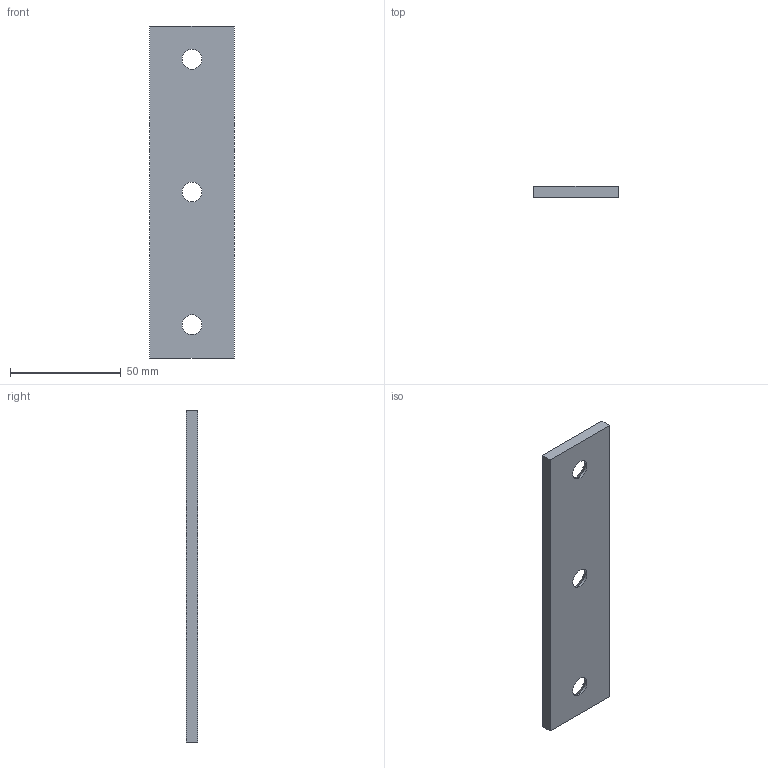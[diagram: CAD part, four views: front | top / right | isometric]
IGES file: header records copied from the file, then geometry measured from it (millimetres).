
Start section: Data from Parasolid IGES Translator 20.0.26, Copyright(c) 2006 Siemens P LM Software. All Rights Reserved.
Global section: file name: P605-01-038-150.igs; native system: By Siemens PLM Incorporated; preprocessor: XPlus GENERIC/IGES 20.0.26; author: Noname; organization: Noname; date: 20190705.145859; units: millimetre
Bounding box: 38 x 5 x 150 mm (x, y, z)
Surface area: 13186.1 mm2 (no closed solid volume)
Topology: 0 solids, 0 shells, 12 faces, 54 edges, 49 vertices
Faces by surface type: extrusion 6, revolution 6
